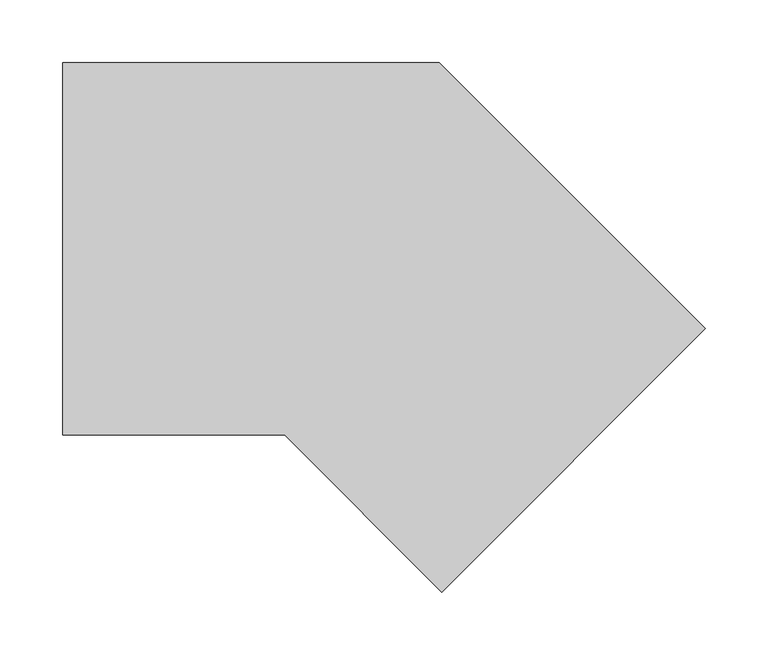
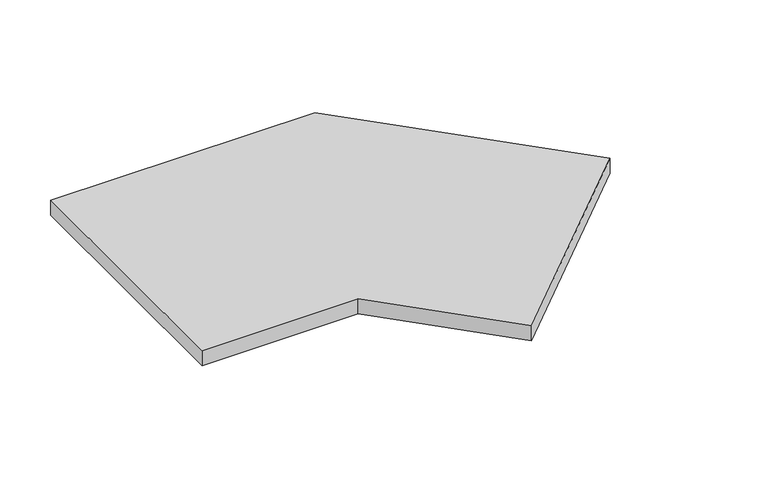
"""IFC4 building model written with IfcOpenShell, lengths in millimetres: proxy geometry, TECHNO_Решетка_KVU : Решетка рулонная алюминиевая/ Белый RAL 9016."""

from ifc_helpers import new_model, si_unit, frame, origin, place, context, project, spatial, polyline, outline, extrude, source, transform, mapped, element, save


def mechanical_equipment_ec97f771(model_context):
    return source(origin(), model_context, "Body", "SweptSolid", [
        extrude(outline(polyline([(274.1226474, -63.6876693), (63.6876693, -274.1226474), (-61.6349781, -148.8), (-238.8679656, -148.8), (-238.8679656, 148.8), (61.6349781, 148.8), (274.1226474, -63.6876693)])), frame((0.0, 0.0, -18.1), z_axis=(0.0, 0.0, 1.0), x_axis=(1.0, 0.0, 0.0)), (0.0, 0.0, 1.0), 18.1),
    ])


if __name__ == "__main__":
    model = new_model("IFC4")
    model_context = context("Model", 3, world=origin())
    ifc_project = project(units=[si_unit("LENGTHUNIT", "METRE", prefix="MILLI")], contexts=[model_context])
    site = spatial("IfcSite", under=ifc_project)
    building = spatial("IfcBuilding", under=site)
    placement = place(None, origin())
    mechanical_equipment_shape = mechanical_equipment_ec97f771(model_context)
    element("IfcBuildingElementProxy", 1, Name="TECHNO_Решетка_KVU : Решетка рулонная алюминиевая/ Белый RAL 9016", ObjectType="TECHNO_Решетка_KVU : Решетка рулонная алюминиевая/ Белый RAL 9016", at=placement, inside=building, context=model_context, shape_type="MappedRepresentation", body=[
        mapped(mechanical_equipment_shape, transform((0.0, 0.0, 0.0), x_axis=(1.0, 0.0, 0.0), y_axis=(0.0, 1.0, 0.0), z_axis=(0.0, 0.0, 1.0))),
    ])
    save(model, "model.ifc")
